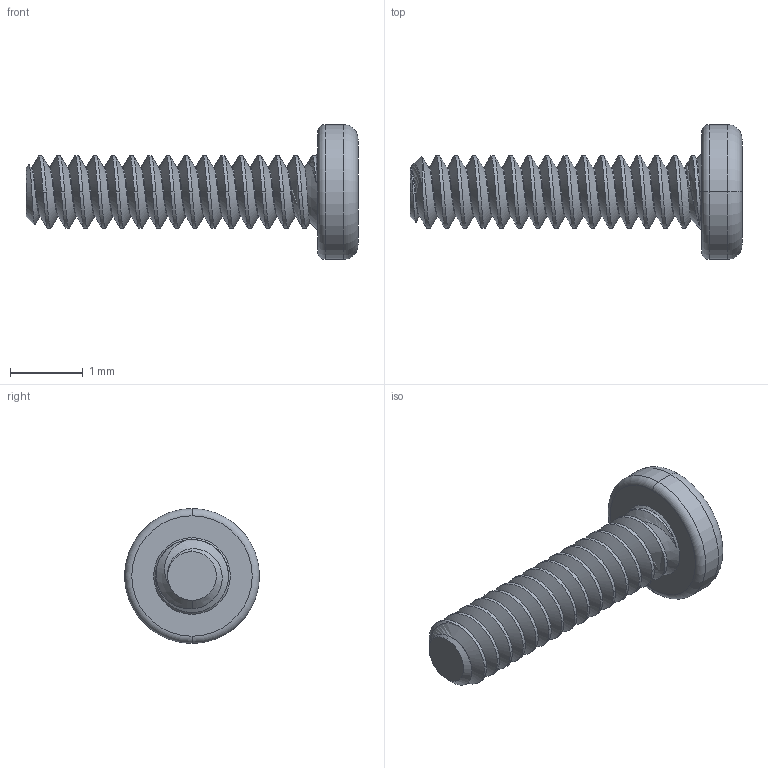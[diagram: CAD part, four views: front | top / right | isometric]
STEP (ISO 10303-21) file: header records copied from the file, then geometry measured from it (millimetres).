
FILE_DESCRIPTION (( 'STEP AP203' ), '1' );
FILE_NAME ('M10-40-M-SS-P-USMICROSCREW.STEP', '2014-12-30T00:12:16', ( '' ), ( '' ), 'SwSTEP 2.0', 'SolidWorks 2014', '' );
FILE_SCHEMA (( 'CONFIG_CONTROL_DESIGN' ));
Length unit declared in the file: millimetre
Products named in the file (1): M10-40-M-SS-P-USMICROSCREW
Bounding box: 4.55 x 1.85 x 1.85 mm (x, y, z)
Volume: 3.7 mm3; surface area: 26.5 mm2
Topology: 1 solids, 1 shells, 111 faces, 307 edges, 196 vertices
Faces by surface type: cylinder 79, plane 16, cone 6, bspline 6, torus 4
Entity records: 5331 total; most frequent: CARTESIAN_POINT 2961, ORIENTED_EDGE 606, DIRECTION 360, EDGE_CURVE 303, VERTEX_POINT 196, AXIS2_PLACEMENT_3D 127, EDGE_LOOP 113, FACE_OUTER_BOUND 111
